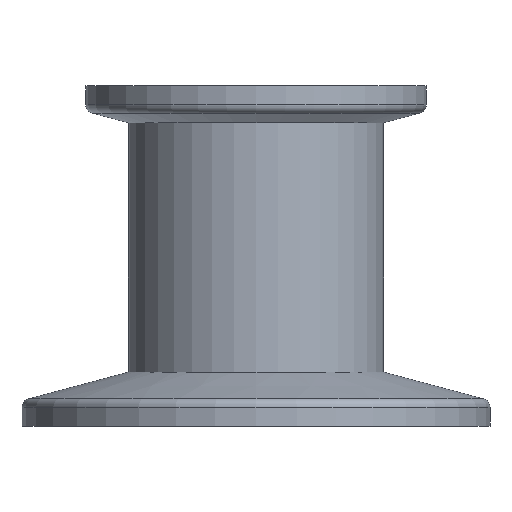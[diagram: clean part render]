
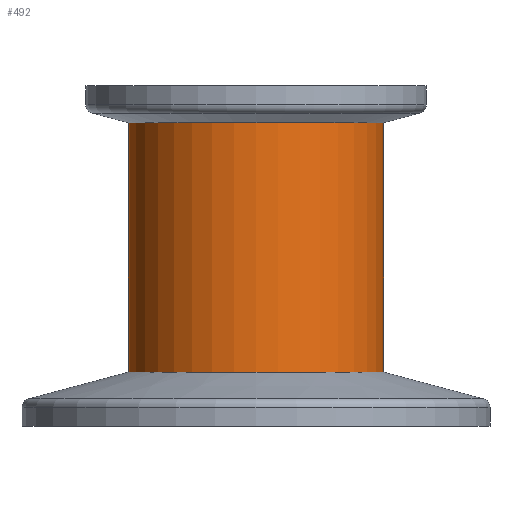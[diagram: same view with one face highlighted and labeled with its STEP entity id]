
A CAD part, left-side view. The second image highlights one B-rep face of the part: STEP entity #492.
In plain terms, the highlighted cylindrical face has radius 15 mm (diameter 30 mm), a partial arc.
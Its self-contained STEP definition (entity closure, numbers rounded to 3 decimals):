
#6 = CIRCLE ( 'NONE', #243, 15. ) ;
#32 = ORIENTED_EDGE ( 'NONE', *, *, #138, .F. ) ;
#60 = CARTESIAN_POINT ( 'NONE',  ( 0., -15., -78.926 ) ) ;
#78 = CYLINDRICAL_SURFACE ( 'NONE', #374, 15. ) ;
#125 = CARTESIAN_POINT ( 'NONE',  ( 0., -15., -33.651 ) ) ;
#131 = CARTESIAN_POINT ( 'NONE',  ( 0., 15., -33.651 ) ) ;
#138 = EDGE_CURVE ( 'NONE', #152, #192, #261, .T. ) ;
#152 = VERTEX_POINT ( 'NONE', #672 ) ;
#191 = CARTESIAN_POINT ( 'NONE',  ( 0., 0., -78.926 ) ) ;
#192 = VERTEX_POINT ( 'NONE', #633 ) ;
#218 = DIRECTION ( 'NONE',  ( 0., 0., 1. ) ) ;
#243 = AXIS2_PLACEMENT_3D ( 'NONE', #379, #493, #337 ) ;
#261 = CIRCLE ( 'NONE', #577, 15. ) ;
#287 = EDGE_CURVE ( 'NONE', #565, #152, #458, .T. ) ;
#302 = EDGE_LOOP ( 'NONE', ( #422, #358, #529, #32 ) ) ;
#323 = EDGE_CURVE ( 'NONE', #609, #192, #534, .T. ) ;
#327 = DIRECTION ( 'NONE',  ( 0., 0., 1. ) ) ;
#337 = DIRECTION ( 'NONE',  ( 0., -1., 0. ) ) ;
#358 = ORIENTED_EDGE ( 'NONE', *, *, #629, .T. ) ;
#368 = DIRECTION ( 'NONE',  ( 0., 0., 1. ) ) ;
#374 = AXIS2_PLACEMENT_3D ( 'NONE', #191, #455, #460 ) ;
#379 = CARTESIAN_POINT ( 'NONE',  ( 0., 0., -33.651 ) ) ;
#422 = ORIENTED_EDGE ( 'NONE', *, *, #287, .F. ) ;
#455 = DIRECTION ( 'NONE',  ( 0., 0., 1. ) ) ;
#458 = LINE ( 'NONE', #638, #637 ) ;
#460 = DIRECTION ( 'NONE',  ( 0., -1., 0. ) ) ;
#492 = ADVANCED_FACE ( 'NONE', ( #618 ), #78, .T. ) ;
#493 = DIRECTION ( 'NONE',  ( 0., 0., 1. ) ) ;
#529 = ORIENTED_EDGE ( 'NONE', *, *, #323, .T. ) ;
#534 = LINE ( 'NONE', #60, #620 ) ;
#565 = VERTEX_POINT ( 'NONE', #131 ) ;
#577 = AXIS2_PLACEMENT_3D ( 'NONE', #676, #368, #626 ) ;
#609 = VERTEX_POINT ( 'NONE', #125 ) ;
#618 = FACE_OUTER_BOUND ( 'NONE', #302, .T. ) ;
#620 = VECTOR ( 'NONE', #218, 1000. ) ;
#626 = DIRECTION ( 'NONE',  ( 0., -1., 0. ) ) ;
#629 = EDGE_CURVE ( 'NONE', #565, #609, #6, .T. ) ;
#633 = CARTESIAN_POINT ( 'NONE',  ( 0., -15., -4.34 ) ) ;
#637 = VECTOR ( 'NONE', #327, 1000. ) ;
#638 = CARTESIAN_POINT ( 'NONE',  ( 0., 15., -78.926 ) ) ;
#672 = CARTESIAN_POINT ( 'NONE',  ( 0., 15., -4.34 ) ) ;
#676 = CARTESIAN_POINT ( 'NONE',  ( 0., 0., -4.34 ) ) ;
